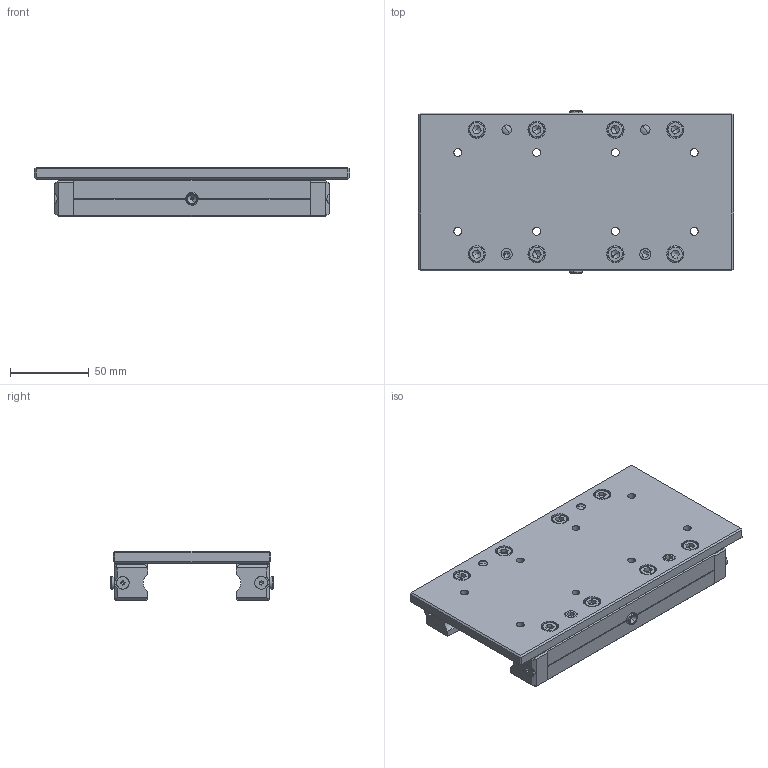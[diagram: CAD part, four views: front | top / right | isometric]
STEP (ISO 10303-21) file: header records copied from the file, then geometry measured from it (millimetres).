
FILE_DESCRIPTION (( 'STEP AP203' ), '1' );
FILE_NAME ('Wellenschlitten 7 und 8_-_WS7 150mm.step', '2005-06-07T09:33:57', ( ' ' ), ( ' ' ), 'SwSTEP 2.0', 'SolidWorks 2005143', '' );
FILE_SCHEMA (( 'CONFIG_CONTROL_DESIGN' ));
Length unit declared in the file: millimetre
Products named in the file (10): Schmiernippel_Standard; DIN 7991_Senkschraube DIN 7991, M 4 x 8; DIN 6912_Zylinderschraube DIN 6912 8.8 M 6 x 10; Wellenschlitten 7 und 8_-_WS7 150mm; EZ3022 Wellenschlittenprofil 7 für Wellenschlitten WS7 und WS8_TE2757 Wellenschlittenprofil 7 für Wellenschlitten WS7 - Einstellseite; EZ3022 Wellenschlittenprofil 7 für Wellenschlitten WS7 und WS8_TE2758 Wellenschlittenprofil 7 für Wellenschlitten WS7 - Anschlagseite; EZ3024 Lagerplatte WS7- WS8_TE2752 Lagerplatte für Wellenschlitten WS7; TE1499 Umlenkteil mit Abdeckung Linearschlittenprofil (einseitig) Wellenschlitten7_Standard; TE2770-4 Gewindestift M8x0.75 mit 60 Spitze_Standard; DIN6325 Zylindersift m6_Zylinderstift DIN 6325 d6x 18
Assembly tree (25 placements, depth 2):
  Wellenschlitten 7 und 8_-_WS7 150mm
    DIN 7991_Senkschraube DIN 7991, M 4 x 8  x4
    Schmiernippel_Standard  x2
    TE1499 Umlenkteil mit Abdeckung Linearschlittenprofil (einseitig) Wellenschlitten7_Standard  x4
    DIN 6912_Zylinderschraube DIN 6912 8.8 M 6 x 10  x8
    TE2770-4 Gewindestift M8x0.75 mit 60 Spitze_Standard  x2
    DIN6325 Zylindersift m6_Zylinderstift DIN 6325 d6x 18  x2
    EZ3022 Wellenschlittenprofil 7 für Wellenschlitten WS7 und WS8_TE2758 Wellenschlittenprofil 7 für Wellenschlitten WS7 - Anschlagseite
    EZ3024 Lagerplatte WS7- WS8_TE2752 Lagerplatte für Wellenschlitten WS7
    EZ3022 Wellenschlittenprofil 7 für Wellenschlitten WS7 und WS8_TE2757 Wellenschlittenprofil 7 für Wellenschlitten WS7 - Einstellseite
Bounding box: 200 x 103 x 31.7 mm (x, y, z)
Volume: 279824.1 mm3; surface area: 119962.3 mm2
Topology: 25 solids, 25 shells, 908 faces, 2328 edges, 1432 vertices
Faces by surface type: cylinder 374, plane 358, cone 116, torus 48, sphere 12
Entity records: 21230 total; most frequent: CARTESIAN_POINT 4937, ORIENTED_EDGE 3224, DIRECTION 3033, EDGE_CURVE 1612, AXIS2_PLACEMENT_3D 1123, VERTEX_POINT 1027, VECTOR 787, LINE 787
